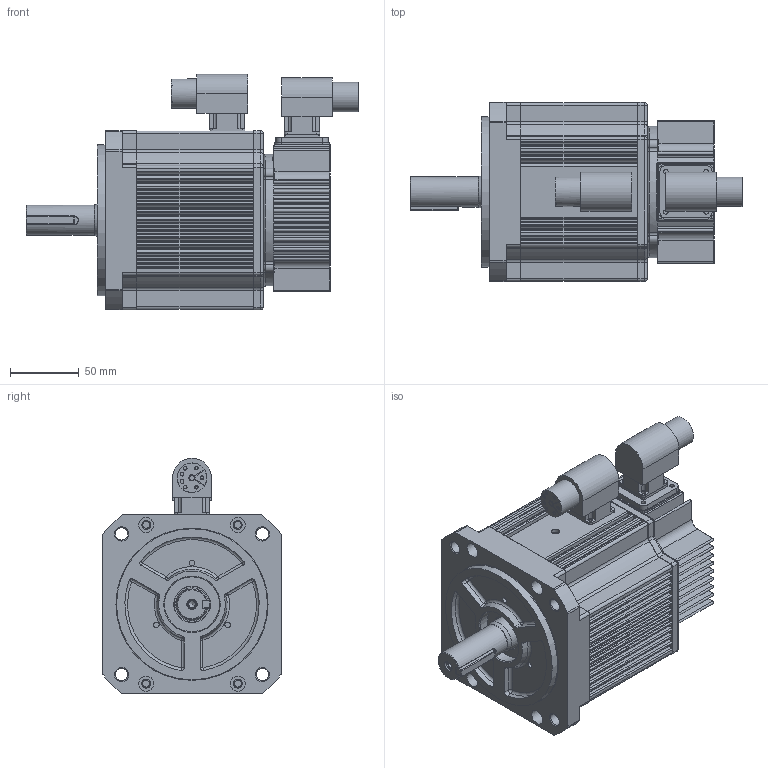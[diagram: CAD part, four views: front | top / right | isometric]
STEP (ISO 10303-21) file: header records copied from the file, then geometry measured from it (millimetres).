
FILE_DESCRIPTION( ( 'Unknown' ), '1' );
FILE_NAME( 'C:/Documents and Settings/leon/桌面/工作資料/3D型錄相關/3D組立圖(給子勤)/stp/DTSB13102B3NGAD0K & DTSB13102B-380V機種 & DTSB13152C3NGAD0K.stp', 'Unknown', ( 'Unknown' ), ( 'Unknown' ), 'PSStep 14.0', 'Unknown', ' ' );
FILE_SCHEMA( ( 'AUTOMOTIVE_DESIGN { 1 0 10303 214 1 1 1 1 }' ) );
Length unit declared in the file: millimetre
Products named in the file (14): 0S180JXB7BA0P-01; 0S331JXA0BP01-01; Assem1; 軍規(電源); 軍規(譯碼器); 1KW\X2\4EE54E0A752853F05EA\X0\; \X2\8ECD898F96326C34588A724\X0\; \X2\50C5524D7AEF542B937569FD8EF\X0\; \X2\51F8625867B\X0\; \X2\625867B\X0\; \X2\4FDD84CB96326C34588\X0\; \X2\4FDD84C\X0\; \X2\937\X0\
Assembly tree (13 placements, depth 3):
  Assem1
    軍規(電源)
    軍規(譯碼器)
    1KW\X2\4EE54E0A752853F05EA\X0\
    \X2\8ECD898F96326C34588A724\X0\
    \X2\50C5524D7AEF542B937569FD8EF\X0\
    \X2\51F8625867B\X0\
    \X2\51F8625867B\X0\
    \X2\625867B\X0\
    \X2\4FDD84CB96326C34588\X0\
    \X2\4FDD84C\X0\
    \X2\937\X0\
    0S180JXB7BA0P-01
      0S331JXA0BP01-01
Bounding box: 241.9 x 130.4 x 171.6 mm (x, y, z)
Volume: 2415353.5 mm3; surface area: 308089.5 mm2
Topology: 12 solids, 15 shells, 1405 faces, 3567 edges, 2242 vertices
Faces by surface type: cylinder 644, plane 510, torus 157, cone 59, sphere 28, bspline 7
Full cylindrical faces by diameter (mm): 1.5 x17, 1.926 x2, 1.985 x1, 2.013 x4, 2.459 x4, 2.5 x4, 2.585 x2, 2.611 x2, 2.621 x4, 2.637 x1, 2.7 x8, 2.834 x2, 3 x4, 3.25 x4, 3.5 x4, 3.746 x1, 4 x3, 5 x9, 6 x1, 6.2 x1, 6.5 x8, 9 x4, 11 x4, 20 x2, 21.5 x2, 22 x1, 24 x1, 24.9 x1, 40 x1, 52 x1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
Entity records: 53266 total; most frequent: CARTESIAN_POINT 7771, DIRECTION 7655, ORIENTED_EDGE 6676, EDGE_CURVE 3338, AXIS2_PLACEMENT_3D 3012, VERTEX_POINT 2183, EDGE_LOOP 1686, LINE 1631
